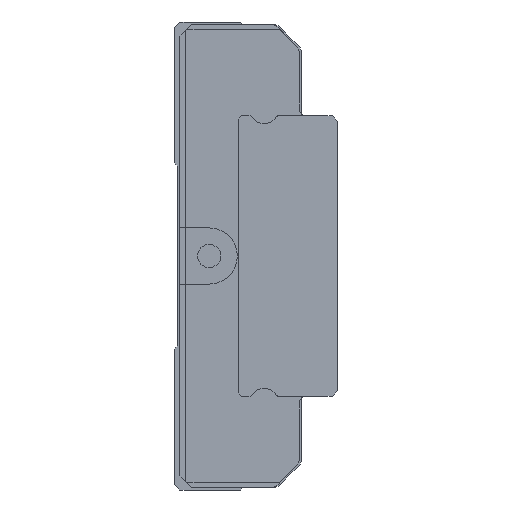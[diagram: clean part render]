
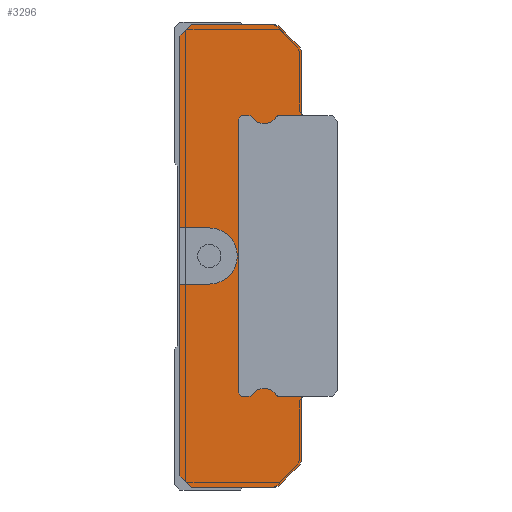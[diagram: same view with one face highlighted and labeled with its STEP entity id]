
A CAD part, left-side view. The second image highlights one B-rep face of the part: STEP entity #3296.
In plain terms, the highlighted planar face has unit normal (-1, 0, 0).
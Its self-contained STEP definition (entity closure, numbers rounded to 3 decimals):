
#152=CIRCLE('',#3633,1.);
#153=CIRCLE('',#3634,1.);
#154=CIRCLE('',#3635,2.4);
#155=CIRCLE('',#3636,1.);
#156=CIRCLE('',#3637,1.);
#157=CIRCLE('',#3638,0.15);
#158=CIRCLE('',#3639,1.25);
#159=CIRCLE('',#3640,0.15);
#160=CIRCLE('',#3641,0.15);
#161=CIRCLE('',#3642,1.25);
#162=CIRCLE('',#3643,0.15);
#580=ORIENTED_EDGE('',*,*,#1292,.T.);
#581=ORIENTED_EDGE('',*,*,#1293,.F.);
#582=ORIENTED_EDGE('',*,*,#1294,.F.);
#583=ORIENTED_EDGE('',*,*,#1295,.F.);
#584=ORIENTED_EDGE('',*,*,#1296,.F.);
#585=ORIENTED_EDGE('',*,*,#1297,.F.);
#586=ORIENTED_EDGE('',*,*,#1298,.F.);
#587=ORIENTED_EDGE('',*,*,#1299,.F.);
#588=ORIENTED_EDGE('',*,*,#1300,.T.);
#589=ORIENTED_EDGE('',*,*,#1301,.T.);
#590=ORIENTED_EDGE('',*,*,#1302,.T.);
#591=ORIENTED_EDGE('',*,*,#1303,.F.);
#592=ORIENTED_EDGE('',*,*,#1304,.F.);
#593=ORIENTED_EDGE('',*,*,#1305,.F.);
#594=ORIENTED_EDGE('',*,*,#1306,.F.);
#595=ORIENTED_EDGE('',*,*,#1307,.F.);
#596=ORIENTED_EDGE('',*,*,#1308,.F.);
#597=ORIENTED_EDGE('',*,*,#1309,.F.);
#598=ORIENTED_EDGE('',*,*,#1310,.T.);
#599=ORIENTED_EDGE('',*,*,#1311,.T.);
#600=ORIENTED_EDGE('',*,*,#1312,.F.);
#601=ORIENTED_EDGE('',*,*,#1313,.T.);
#602=ORIENTED_EDGE('',*,*,#1314,.T.);
#603=ORIENTED_EDGE('',*,*,#1315,.T.);
#604=ORIENTED_EDGE('',*,*,#1316,.T.);
#605=ORIENTED_EDGE('',*,*,#1317,.T.);
#606=ORIENTED_EDGE('',*,*,#1318,.T.);
#607=ORIENTED_EDGE('',*,*,#1319,.T.);
#608=ORIENTED_EDGE('',*,*,#1320,.F.);
#609=ORIENTED_EDGE('',*,*,#1321,.T.);
#1292=EDGE_CURVE('',#1706,#1707,#1934,.T.);
#1293=EDGE_CURVE('',#1708,#1707,#1935,.T.);
#1294=EDGE_CURVE('',#1709,#1708,#152,.T.);
#1295=EDGE_CURVE('',#1710,#1709,#1936,.T.);
#1296=EDGE_CURVE('',#1711,#1710,#153,.T.);
#1297=EDGE_CURVE('',#1712,#1711,#1937,.T.);
#1298=EDGE_CURVE('',#1713,#1712,#1938,.T.);
#1299=EDGE_CURVE('',#1714,#1713,#1939,.T.);
#1300=EDGE_CURVE('',#1714,#1715,#1940,.T.);
#1301=EDGE_CURVE('',#1715,#1716,#154,.T.);
#1302=EDGE_CURVE('',#1716,#1717,#1941,.T.);
#1303=EDGE_CURVE('',#1718,#1717,#1942,.T.);
#1304=EDGE_CURVE('',#1719,#1718,#1943,.T.);
#1305=EDGE_CURVE('',#1720,#1719,#1944,.T.);
#1306=EDGE_CURVE('',#1721,#1720,#155,.T.);
#1307=EDGE_CURVE('',#1722,#1721,#1945,.T.);
#1308=EDGE_CURVE('',#1723,#1722,#156,.T.);
#1309=EDGE_CURVE('',#1724,#1723,#1946,.T.);
#1310=EDGE_CURVE('',#1724,#1725,#1947,.T.);
#1311=EDGE_CURVE('',#1725,#1726,#157,.T.);
#1312=EDGE_CURVE('',#1727,#1726,#158,.T.);
#1313=EDGE_CURVE('',#1727,#1728,#159,.T.);
#1314=EDGE_CURVE('',#1728,#1729,#1948,.T.);
#1315=EDGE_CURVE('',#1729,#1730,#1949,.T.);
#1316=EDGE_CURVE('',#1730,#1731,#1950,.T.);
#1317=EDGE_CURVE('',#1731,#1732,#1951,.T.);
#1318=EDGE_CURVE('',#1732,#1733,#1952,.T.);
#1319=EDGE_CURVE('',#1733,#1734,#160,.T.);
#1320=EDGE_CURVE('',#1735,#1734,#161,.T.);
#1321=EDGE_CURVE('',#1735,#1706,#162,.T.);
#1706=VERTEX_POINT('',#5164);
#1707=VERTEX_POINT('',#5165);
#1708=VERTEX_POINT('',#5167);
#1709=VERTEX_POINT('',#5169);
#1710=VERTEX_POINT('',#5171);
#1711=VERTEX_POINT('',#5173);
#1712=VERTEX_POINT('',#5175);
#1713=VERTEX_POINT('',#5177);
#1714=VERTEX_POINT('',#5179);
#1715=VERTEX_POINT('',#5181);
#1716=VERTEX_POINT('',#5183);
#1717=VERTEX_POINT('',#5185);
#1718=VERTEX_POINT('',#5187);
#1719=VERTEX_POINT('',#5189);
#1720=VERTEX_POINT('',#5191);
#1721=VERTEX_POINT('',#5193);
#1722=VERTEX_POINT('',#5195);
#1723=VERTEX_POINT('',#5197);
#1724=VERTEX_POINT('',#5199);
#1725=VERTEX_POINT('',#5201);
#1726=VERTEX_POINT('',#5203);
#1727=VERTEX_POINT('',#5205);
#1728=VERTEX_POINT('',#5207);
#1729=VERTEX_POINT('',#5209);
#1730=VERTEX_POINT('',#5211);
#1731=VERTEX_POINT('',#5213);
#1732=VERTEX_POINT('',#5215);
#1733=VERTEX_POINT('',#5217);
#1734=VERTEX_POINT('',#5219);
#1735=VERTEX_POINT('',#5221);
#1934=LINE('',#5163,#2198);
#1935=LINE('',#5166,#2199);
#1936=LINE('',#5170,#2200);
#1937=LINE('',#5174,#2201);
#1938=LINE('',#5176,#2202);
#1939=LINE('',#5178,#2203);
#1940=LINE('',#5180,#2204);
#1941=LINE('',#5184,#2205);
#1942=LINE('',#5186,#2206);
#1943=LINE('',#5188,#2207);
#1944=LINE('',#5190,#2208);
#1945=LINE('',#5194,#2209);
#1946=LINE('',#5198,#2210);
#1947=LINE('',#5200,#2211);
#1948=LINE('',#5208,#2212);
#1949=LINE('',#5210,#2213);
#1950=LINE('',#5212,#2214);
#1951=LINE('',#5214,#2215);
#1952=LINE('',#5216,#2216);
#2198=VECTOR('',#4243,1000.);
#2199=VECTOR('',#4244,1000.);
#2200=VECTOR('',#4247,1000.);
#2201=VECTOR('',#4250,1000.);
#2202=VECTOR('',#4251,1000.);
#2203=VECTOR('',#4252,1000.);
#2204=VECTOR('',#4253,1000.);
#2205=VECTOR('',#4256,1000.);
#2206=VECTOR('',#4257,1000.);
#2207=VECTOR('',#4258,1000.);
#2208=VECTOR('',#4259,1000.);
#2209=VECTOR('',#4262,1000.);
#2210=VECTOR('',#4265,1000.);
#2211=VECTOR('',#4266,1000.);
#2212=VECTOR('',#4273,1000.);
#2213=VECTOR('',#4274,1000.);
#2214=VECTOR('',#4275,1000.);
#2215=VECTOR('',#4276,1000.);
#2216=VECTOR('',#4277,1000.);
#2644=EDGE_LOOP('',(#580,#581,#582,#583,#584,#585,#586,#587,#588,#589,#590,
#591,#592,#593,#594,#595,#596,#597,#598,#599,#600,#601,#602,#603,#604,#605,
#606,#607,#608,#609));
#2976=FACE_BOUND('',#2644,.T.);
#3129=PLANE('',#3632);
#3296=ADVANCED_FACE('',(#2976),#3129,.F.);
#3632=AXIS2_PLACEMENT_3D('',#5162,#4241,#4242);
#3633=AXIS2_PLACEMENT_3D('',#5168,#4245,#4246);
#3634=AXIS2_PLACEMENT_3D('',#5172,#4248,#4249);
#3635=AXIS2_PLACEMENT_3D('',#5182,#4254,#4255);
#3636=AXIS2_PLACEMENT_3D('',#5192,#4260,#4261);
#3637=AXIS2_PLACEMENT_3D('',#5196,#4263,#4264);
#3638=AXIS2_PLACEMENT_3D('',#5202,#4267,#4268);
#3639=AXIS2_PLACEMENT_3D('',#5204,#4269,#4270);
#3640=AXIS2_PLACEMENT_3D('',#5206,#4271,#4272);
#3641=AXIS2_PLACEMENT_3D('',#5218,#4278,#4279);
#3642=AXIS2_PLACEMENT_3D('',#5220,#4280,#4281);
#3643=AXIS2_PLACEMENT_3D('',#5222,#4282,#4283);
#4241=DIRECTION('',(1.,0.,0.));
#4242=DIRECTION('',(0.,0.,-1.));
#4243=DIRECTION('',(0.,-1.,0.));
#4244=DIRECTION('',(0.,0.,-1.));
#4245=DIRECTION('',(1.,0.,0.));
#4246=DIRECTION('',(0.,0.,-1.));
#4247=DIRECTION('',(0.,-0.707,-0.707));
#4248=DIRECTION('',(1.,0.,0.));
#4249=DIRECTION('',(0.,0.,-1.));
#4250=DIRECTION('',(0.,-1.,0.));
#4251=DIRECTION('',(0.,-0.707,0.707));
#4252=DIRECTION('',(0.,0.,1.));
#4253=DIRECTION('',(0.,-1.,0.));
#4254=DIRECTION('',(1.,0.,0.));
#4255=DIRECTION('',(0.,0.,-1.));
#4256=DIRECTION('',(0.,1.,0.));
#4257=DIRECTION('',(0.,0.,1.));
#4258=DIRECTION('',(0.,0.707,0.707));
#4259=DIRECTION('',(0.,1.,0.));
#4260=DIRECTION('',(1.,0.,0.));
#4261=DIRECTION('',(0.,0.,-1.));
#4262=DIRECTION('',(0.,0.707,-0.707));
#4263=DIRECTION('',(1.,0.,0.));
#4264=DIRECTION('',(0.,0.,-1.));
#4265=DIRECTION('',(0.,0.,-1.));
#4266=DIRECTION('',(0.,1.,0.));
#4267=DIRECTION('',(1.,0.,0.));
#4268=DIRECTION('',(0.,0.,-1.));
#4269=DIRECTION('',(1.,0.,0.));
#4270=DIRECTION('',(0.,0.,-1.));
#4271=DIRECTION('',(1.,0.,0.));
#4272=DIRECTION('',(0.,0.,-1.));
#4273=DIRECTION('',(0.,1.,0.));
#4274=DIRECTION('',(0.,0.707,0.707));
#4275=DIRECTION('',(0.,0.,1.));
#4276=DIRECTION('',(0.,-0.707,0.707));
#4277=DIRECTION('',(0.,-1.,0.));
#4278=DIRECTION('',(1.,0.,0.));
#4279=DIRECTION('',(0.,0.,-1.));
#4280=DIRECTION('',(1.,0.,0.));
#4281=DIRECTION('',(0.,0.,-1.));
#4282=DIRECTION('',(1.,0.,0.));
#4283=DIRECTION('',(0.,0.,-1.));
#5162=CARTESIAN_POINT('',(-15.25,2.614,18.8));
#5163=CARTESIAN_POINT('',(-15.25,2.088,12.));
#5164=CARTESIAN_POINT('',(-15.25,2.088,12.));
#5165=CARTESIAN_POINT('',(-15.25,0.1,12.));
#5166=CARTESIAN_POINT('',(-15.25,0.1,17.286));
#5167=CARTESIAN_POINT('',(-15.25,0.1,17.286));
#5168=CARTESIAN_POINT('',(-15.25,1.1,17.286));
#5169=CARTESIAN_POINT('',(-15.25,0.393,17.993));
#5170=CARTESIAN_POINT('',(-15.25,1.907,19.507));
#5171=CARTESIAN_POINT('',(-15.25,1.907,19.507));
#5172=CARTESIAN_POINT('',(-15.25,2.614,18.8));
#5173=CARTESIAN_POINT('',(-15.25,2.614,19.8));
#5174=CARTESIAN_POINT('',(-15.25,9.5,19.8));
#5175=CARTESIAN_POINT('',(-15.25,9.5,19.8));
#5176=CARTESIAN_POINT('',(-15.25,10.5,18.8));
#5177=CARTESIAN_POINT('',(-15.25,10.5,18.8));
#5178=CARTESIAN_POINT('',(-15.25,10.5,-18.8));
#5179=CARTESIAN_POINT('',(-15.25,10.5,2.4));
#5180=CARTESIAN_POINT('',(-15.25,11.,2.4));
#5181=CARTESIAN_POINT('',(-15.25,8.,2.4));
#5182=CARTESIAN_POINT('',(-15.25,8.,0.));
#5183=CARTESIAN_POINT('',(-15.25,8.,-2.4));
#5184=CARTESIAN_POINT('',(-15.25,8.,-2.4));
#5185=CARTESIAN_POINT('',(-15.25,10.5,-2.4));
#5186=CARTESIAN_POINT('',(-15.25,10.5,-18.8));
#5187=CARTESIAN_POINT('',(-15.25,10.5,-18.8));
#5188=CARTESIAN_POINT('',(-15.25,9.5,-19.8));
#5189=CARTESIAN_POINT('',(-15.25,9.5,-19.8));
#5190=CARTESIAN_POINT('',(-15.25,2.614,-19.8));
#5191=CARTESIAN_POINT('',(-15.25,2.614,-19.8));
#5192=CARTESIAN_POINT('',(-15.25,2.614,-18.8));
#5193=CARTESIAN_POINT('',(-15.25,1.907,-19.507));
#5194=CARTESIAN_POINT('',(-15.25,0.393,-17.993));
#5195=CARTESIAN_POINT('',(-15.25,0.393,-17.993));
#5196=CARTESIAN_POINT('',(-15.25,1.1,-17.286));
#5197=CARTESIAN_POINT('',(-15.25,0.1,-17.286));
#5198=CARTESIAN_POINT('',(-15.25,0.1,17.286));
#5199=CARTESIAN_POINT('',(-15.25,0.1,-12.));
#5200=CARTESIAN_POINT('',(-15.25,-2.5,-12.));
#5201=CARTESIAN_POINT('',(-15.25,2.088,-12.));
#5202=CARTESIAN_POINT('',(-15.25,2.088,-11.85));
#5203=CARTESIAN_POINT('',(-15.25,2.217,-11.925));
#5204=CARTESIAN_POINT('',(-15.25,3.3,-12.55));
#5205=CARTESIAN_POINT('',(-15.25,4.383,-11.925));
#5206=CARTESIAN_POINT('',(-15.25,4.512,-11.85));
#5207=CARTESIAN_POINT('',(-15.25,4.512,-12.));
#5208=CARTESIAN_POINT('',(-15.25,4.512,-12.));
#5209=CARTESIAN_POINT('',(-15.25,5.2,-12.));
#5210=CARTESIAN_POINT('',(-15.25,5.2,-12.));
#5211=CARTESIAN_POINT('',(-15.25,5.5,-11.7));
#5212=CARTESIAN_POINT('',(-15.25,5.5,-11.7));
#5213=CARTESIAN_POINT('',(-15.25,5.5,11.7));
#5214=CARTESIAN_POINT('',(-15.25,5.5,11.7));
#5215=CARTESIAN_POINT('',(-15.25,5.2,12.));
#5216=CARTESIAN_POINT('',(-15.25,5.2,12.));
#5217=CARTESIAN_POINT('',(-15.25,4.512,12.));
#5218=CARTESIAN_POINT('',(-15.25,4.512,11.85));
#5219=CARTESIAN_POINT('',(-15.25,4.383,11.925));
#5220=CARTESIAN_POINT('',(-15.25,3.3,12.55));
#5221=CARTESIAN_POINT('',(-15.25,2.217,11.925));
#5222=CARTESIAN_POINT('',(-15.25,2.088,11.85));
